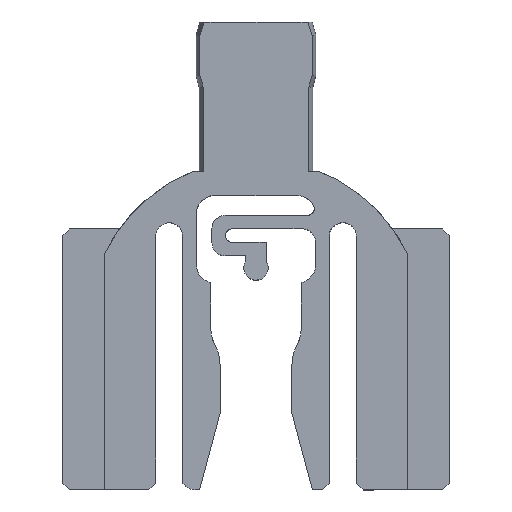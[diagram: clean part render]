
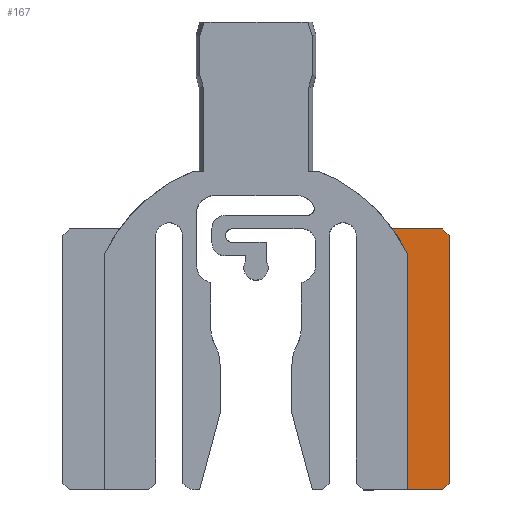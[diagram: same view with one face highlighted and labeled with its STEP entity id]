
A CAD part, top view. The second image highlights one B-rep face of the part: STEP entity #167.
In plain terms, the highlighted planar face has unit normal (0, 0, 1).
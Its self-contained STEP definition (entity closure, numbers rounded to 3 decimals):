
#123=CIRCLE('',#1606,12.4);
#167=ADVANCED_FACE('',(#299),#246,.F.);
#246=PLANE('',#1607);
#299=FACE_OUTER_BOUND('',#379,.T.);
#379=EDGE_LOOP('',(#489,#490,#491,#492,#493,#494,#495));
#489=ORIENTED_EDGE('',*,*,#1099,.T.);
#490=ORIENTED_EDGE('',*,*,#1109,.F.);
#491=ORIENTED_EDGE('',*,*,#1110,.T.);
#492=ORIENTED_EDGE('',*,*,#1111,.T.);
#493=ORIENTED_EDGE('',*,*,#1108,.F.);
#494=ORIENTED_EDGE('',*,*,#1082,.T.);
#495=ORIENTED_EDGE('',*,*,#1086,.T.);
#924=VERTEX_POINT('',#2074);
#925=VERTEX_POINT('',#2076);
#927=VERTEX_POINT('',#2082);
#937=VERTEX_POINT('',#2109);
#943=VERTEX_POINT('',#2130);
#944=VERTEX_POINT('',#2134);
#945=VERTEX_POINT('',#2136);
#1082=EDGE_CURVE('',#925,#924,#1318,.T.);
#1086=EDGE_CURVE('',#924,#927,#1322,.T.);
#1099=EDGE_CURVE('',#927,#937,#1335,.T.);
#1108=EDGE_CURVE('',#925,#943,#1343,.T.);
#1109=EDGE_CURVE('',#944,#937,#123,.T.);
#1110=EDGE_CURVE('',#944,#945,#1344,.T.);
#1111=EDGE_CURVE('',#945,#943,#1345,.T.);
#1318=LINE('',#2075,#1458);
#1322=LINE('',#2083,#1462);
#1335=LINE('',#2110,#1475);
#1343=LINE('',#2131,#1483);
#1344=LINE('',#2135,#1484);
#1345=LINE('',#2137,#1485);
#1458=VECTOR('',#1711,1.);
#1462=VECTOR('',#1717,1.);
#1475=VECTOR('',#1738,1.);
#1483=VECTOR('',#1752,1.);
#1484=VECTOR('',#1757,1.);
#1485=VECTOR('',#1758,1.);
#1606=AXIS2_PLACEMENT_3D('',#2133,#1755,#1756);
#1607=AXIS2_PLACEMENT_3D('',#2138,#1759,#1760);
#1711=DIRECTION('',(0.,1.,0.));
#1717=DIRECTION('',(-0.707,0.707,0.));
#1738=DIRECTION('',(-1.,0.,0.));
#1752=DIRECTION('',(-0.707,-0.707,0.));
#1755=DIRECTION('',(0.,0.,1.));
#1756=DIRECTION('',(0.,1.,0.));
#1757=DIRECTION('',(0.,-1.,0.));
#1758=DIRECTION('',(1.,0.,0.));
#1759=DIRECTION('',(0.,0.,-1.));
#1760=DIRECTION('',(-1.,0.,0.));
#2074=CARTESIAN_POINT('',(14.25,6.637,-4.895));
#2075=CARTESIAN_POINT('',(14.25,-11.613,-4.895));
#2076=CARTESIAN_POINT('',(14.25,-11.613,-4.895));
#2082=CARTESIAN_POINT('',(13.75,7.137,-4.895));
#2083=CARTESIAN_POINT('',(14.25,6.637,-4.895));
#2109=CARTESIAN_POINT('',(10.06,7.137,-4.895));
#2110=CARTESIAN_POINT('',(13.75,7.137,-4.895));
#2130=CARTESIAN_POINT('',(13.75,-12.113,-4.895));
#2131=CARTESIAN_POINT('',(14.25,-11.613,-4.895));
#2133=CARTESIAN_POINT('',(0.,-0.113,-4.895));
#2134=CARTESIAN_POINT('',(11.15,5.313,-4.895));
#2135=CARTESIAN_POINT('',(11.15,-0.113,-4.895));
#2136=CARTESIAN_POINT('',(11.15,-12.113,-4.895));
#2137=CARTESIAN_POINT('',(7.9,-12.113,-4.895));
#2138=CARTESIAN_POINT('',(13.65,-0.113,-4.895));
